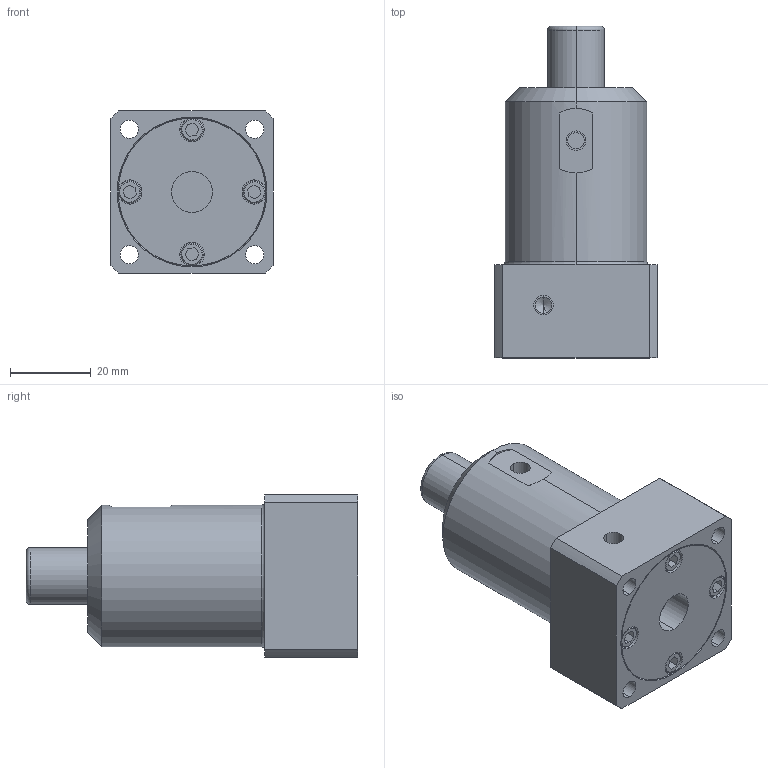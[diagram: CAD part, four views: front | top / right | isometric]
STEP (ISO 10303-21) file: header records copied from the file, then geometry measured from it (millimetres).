
FILE_DESCRIPTION((''),'2;1');
FILE_NAME('001_DESTACO_035_910_ASM','2024-02-28T',('SYSTEM'),(''),'PRO/ENGINEER BY PARAMETRIC TECHNOLOGY CORPORATION, 2016360','PRO/ENGINEER BY PARAMETRIC TECHNOLOGY CORPORATION, 2016360','');
FILE_SCHEMA(('AUTOMOTIVE_DESIGN { 1 0 10303 214 1 1 1 1 }'));
Products named in the file (10): 225BODY_6; 225BODY_5; 225BODY_4; 225BODY_3; 225BODY_2; 225BODY_0; 225-BODY_ASM; 225BODY_1; 225-SHAFT_ASM; 001_DESTACO_035_910_ASM
Assembly tree (9 placements, depth 3):
  001_DESTACO_035_910_ASM
    225-BODY_ASM
      225BODY_6
      225BODY_5
      225BODY_4
      225BODY_3
      225BODY_2
      225BODY_0
    225-SHAFT_ASM
      225BODY_1
Bounding box: 40.06 x 81.94 x 40.06 mm (x, y, z)
Volume: 77063.9 mm3; surface area: 23448.4 mm2
Topology: 7 solids, 7 shells, 158 faces, 367 edges, 234 vertices
Faces by surface type: cylinder 70, plane 60, cone 24, torus 4
Entity records: 6409 total; most frequent: DIRECTION 903, CARTESIAN_POINT 858, ORIENTED_EDGE 726, PRESENTATION_STYLE_ASSIGNMENT 370, STYLED_ITEM 370, CURVE_STYLE 363, EDGE_CURVE 363, AXIS2_PLACEMENT_3D 360
